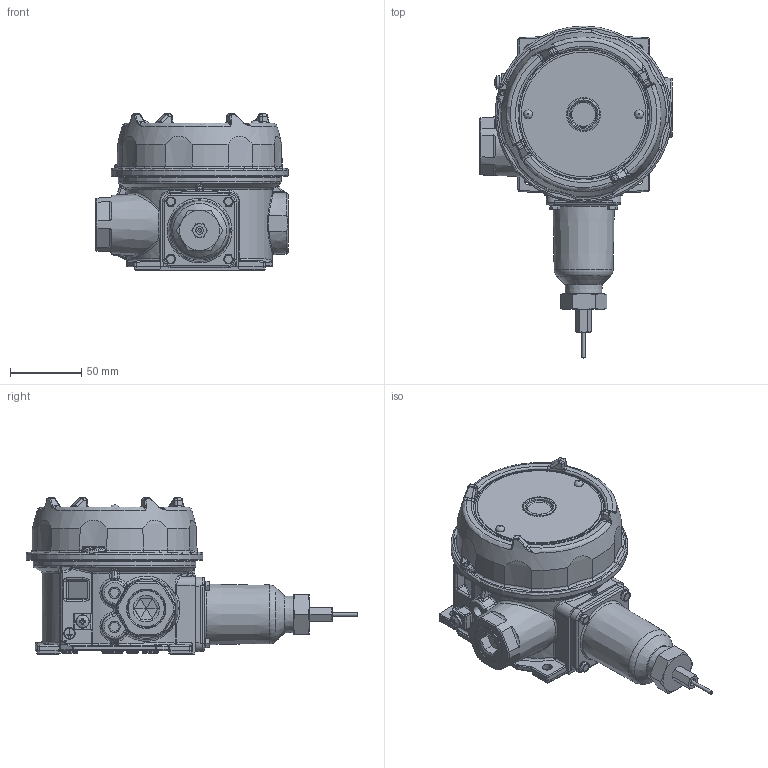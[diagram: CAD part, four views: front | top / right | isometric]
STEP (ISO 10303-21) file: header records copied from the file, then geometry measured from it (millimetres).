
FILE_DESCRIPTION (( 'STEP AP214' ), '1' );
FILE_NAME ('F120-2BS_8BS_V2.STEP', '2025-03-13T18:48:17', ( '' ), ( '' ), 'SwSTEP 2.0', 'SolidWorks 2023', '' );
FILE_SCHEMA (( 'AUTOMOTIVE_DESIGN' ));
Length unit declared in the file: inch
Products named in the file (1): F120-2BS_8BS_V2
Bounding box: 134.62 x 232.51 x 109.35 mm (x, y, z)
Surface area: 92061.5 mm2 (no closed solid volume)
Topology: 0 solids, 26 shells, 971 faces, 2489 edges, 1474 vertices
Faces by surface type: bspline 235, plane 223, cylinder 203, torus 149, cone 131, sphere 30
Full cylindrical faces by diameter (mm): 0.381 x1, 2.362 x1, 3.22 x1, 5.41 x1, 5.556 x4, 7.366 x1, 7.874 x1, 9.5 x1, 23.812 x1, 23.876 x1, 87.312 x1, 114.046 x1, 123.952 x1
Entity records: 39602 total; most frequent: CARTESIAN_POINT 19099, ORIENTED_EDGE 4357, DIRECTION 3904, EDGE_CURVE 2358, AXIS2_PLACEMENT_3D 1641, VERTEX_POINT 1450, EDGE_LOOP 1096, FACE_OUTER_BOUND 1012
